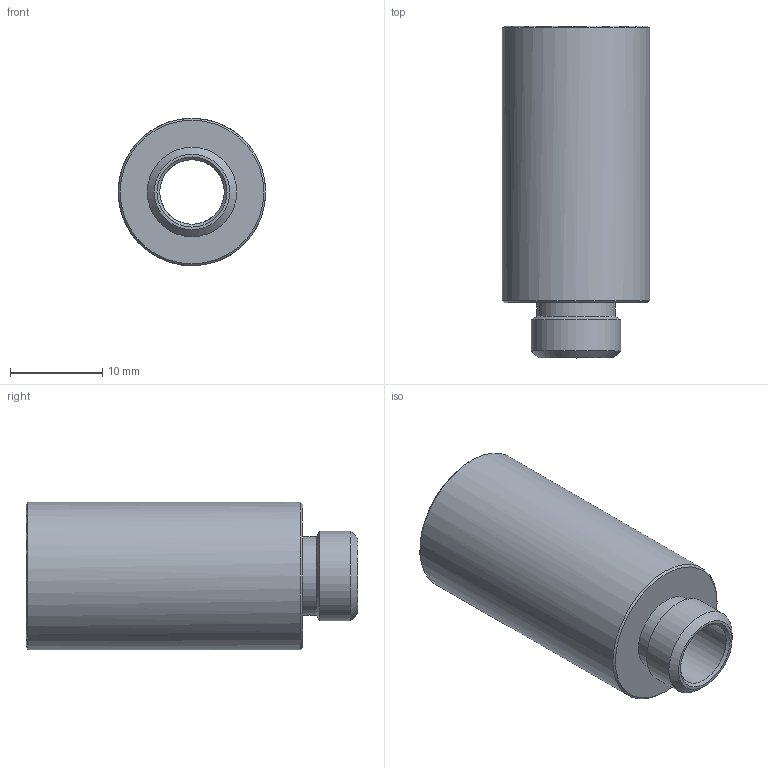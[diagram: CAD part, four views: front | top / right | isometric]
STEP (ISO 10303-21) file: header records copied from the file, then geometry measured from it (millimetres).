
FILE_DESCRIPTION(/* description */ ('SILEZIATORE G1/8"'),/* implementation_level */ '2;1');
FILE_NAME(/* name */ 'C:\PNX_VAULTFOLDER\Area Tecnica\Disegni\VARIE-3D\Componenti\1900 (vuoto)\19S18_S.stp',/* time_stamp */ '2019-09-13T14:47:05+02:00',/* author */ ('maniean1'),/* organization */ ('Pneumax S.p.A.'),/* preprocessor_version */ 'ST-DEVELOPER v17',/* originating_system */ 'Autodesk Inventor 2019',/* authorisation */ '');
FILE_SCHEMA (('AUTOMOTIVE_DESIGN { 1 0 10303 214 3 1 1 }'));
Length unit declared in the file: millimetre
Products named in the file (1): 19S18.S
Bounding box: 16 x 36 x 16 mm (x, y, z)
Volume: 5048.9 mm3; surface area: 2794.9 mm2
Topology: 1 solids, 1 shells, 13 faces, 31 edges, 21 vertices
Faces by surface type: cone 6, cylinder 4, plane 3
Full cylindrical faces by diameter (mm): 7 x1, 8.5 x1, 9.7 x1, 16 x1
Entity records: 457 total; most frequent: DIRECTION 80, CARTESIAN_POINT 66, ORIENTED_EDGE 62, AXIS2_PLACEMENT_3D 35, EDGE_CURVE 31, CIRCLE 21, VERTEX_POINT 21, EDGE_LOOP 16
